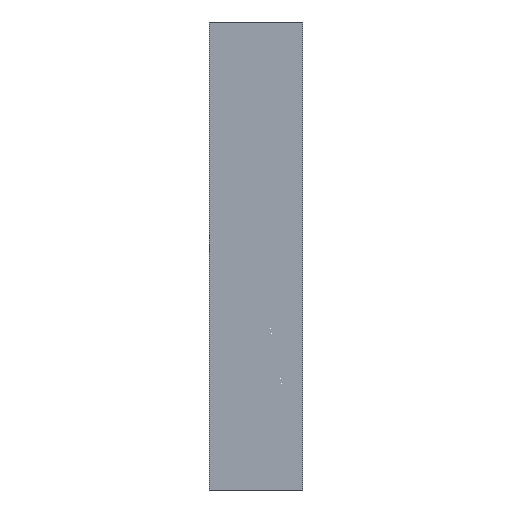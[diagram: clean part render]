
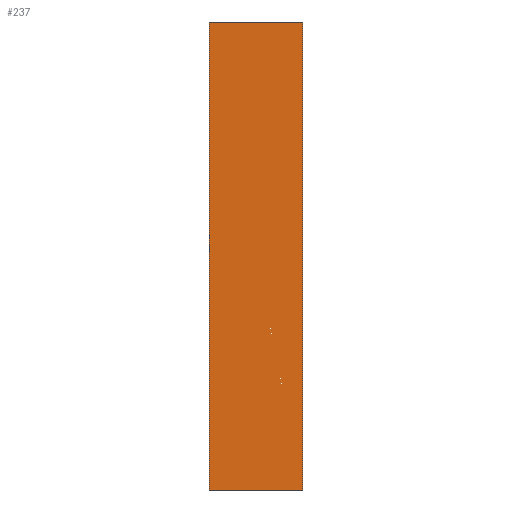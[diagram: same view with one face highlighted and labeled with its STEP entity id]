
A CAD part, front view. The second image highlights one B-rep face of the part: STEP entity #237.
In plain terms, the highlighted planar face has unit normal (0, -1, 0).
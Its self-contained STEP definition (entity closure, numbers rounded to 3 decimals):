
#21 = EDGE_CURVE('',#22,#24,#26,.T.);
#22 = VERTEX_POINT('',#23);
#23 = CARTESIAN_POINT('',(-154.,0.,66.));
#24 = VERTEX_POINT('',#25);
#25 = CARTESIAN_POINT('',(-154.,0.,86.));
#26 = SURFACE_CURVE('',#27,(#31,#43),.PCURVE_S1.);
#27 = LINE('',#28,#29);
#28 = CARTESIAN_POINT('',(-154.,0.,66.));
#29 = VECTOR('',#30,1.);
#30 = DIRECTION('',(0.,0.,1.));
#31 = PCURVE('',#32,#37);
#32 = PLANE('',#33);
#33 = AXIS2_PLACEMENT_3D('',#34,#35,#36);
#34 = CARTESIAN_POINT('',(-154.,0.,66.));
#35 = DIRECTION('',(1.,0.,0.));
#36 = DIRECTION('',(0.,0.,1.));
#37 = DEFINITIONAL_REPRESENTATION('',(#38),#42);
#38 = LINE('',#39,#40);
#39 = CARTESIAN_POINT('',(0.,0.));
#40 = VECTOR('',#41,1.);
#41 = DIRECTION('',(1.,0.));
#42 = ( GEOMETRIC_REPRESENTATION_CONTEXT(2) 
PARAMETRIC_REPRESENTATION_CONTEXT() REPRESENTATION_CONTEXT('2D SPACE',''
  ) );
#43 = PCURVE('',#44,#49);
#44 = PLANE('',#45);
#45 = AXIS2_PLACEMENT_3D('',#46,#47,#48);
#46 = CARTESIAN_POINT('',(-154.,0.,66.));
#47 = DIRECTION('',(0.,1.,0.));
#48 = DIRECTION('',(0.,0.,1.));
#49 = DEFINITIONAL_REPRESENTATION('',(#50),#54);
#50 = LINE('',#51,#52);
#51 = CARTESIAN_POINT('',(0.,0.));
#52 = VECTOR('',#53,1.);
#53 = DIRECTION('',(1.,0.));
#54 = ( GEOMETRIC_REPRESENTATION_CONTEXT(2) 
PARAMETRIC_REPRESENTATION_CONTEXT() REPRESENTATION_CONTEXT('2D SPACE',''
  ) );
#72 = PLANE('',#73);
#73 = AXIS2_PLACEMENT_3D('',#74,#75,#76);
#74 = CARTESIAN_POINT('',(-154.,0.,66.));
#75 = DIRECTION('',(0.,0.,1.));
#76 = DIRECTION('',(1.,0.,0.));
#126 = PLANE('',#127);
#127 = AXIS2_PLACEMENT_3D('',#128,#129,#130);
#128 = CARTESIAN_POINT('',(-154.,0.,86.));
#129 = DIRECTION('',(0.,0.,1.));
#130 = DIRECTION('',(1.,0.,0.));
#141 = EDGE_CURVE('',#142,#144,#146,.T.);
#142 = VERTEX_POINT('',#143);
#143 = CARTESIAN_POINT('',(-150.,0.,66.));
#144 = VERTEX_POINT('',#145);
#145 = CARTESIAN_POINT('',(-150.,0.,86.));
#146 = SURFACE_CURVE('',#147,(#151,#163),.PCURVE_S1.);
#147 = LINE('',#148,#149);
#148 = CARTESIAN_POINT('',(-150.,0.,66.));
#149 = VECTOR('',#150,1.);
#150 = DIRECTION('',(0.,0.,1.));
#151 = PCURVE('',#152,#157);
#152 = PLANE('',#153);
#153 = AXIS2_PLACEMENT_3D('',#154,#155,#156);
#154 = CARTESIAN_POINT('',(-150.,0.,66.));
#155 = DIRECTION('',(1.,0.,0.));
#156 = DIRECTION('',(0.,0.,1.));
#157 = DEFINITIONAL_REPRESENTATION('',(#158),#162);
#158 = LINE('',#159,#160);
#159 = CARTESIAN_POINT('',(0.,0.));
#160 = VECTOR('',#161,1.);
#161 = DIRECTION('',(1.,0.));
#162 = ( GEOMETRIC_REPRESENTATION_CONTEXT(2) 
PARAMETRIC_REPRESENTATION_CONTEXT() REPRESENTATION_CONTEXT('2D SPACE',''
  ) );
#163 = PCURVE('',#44,#164);
#164 = DEFINITIONAL_REPRESENTATION('',(#165),#169);
#165 = LINE('',#166,#167);
#166 = CARTESIAN_POINT('',(0.,4.));
#167 = VECTOR('',#168,1.);
#168 = DIRECTION('',(1.,0.));
#169 = ( GEOMETRIC_REPRESENTATION_CONTEXT(2) 
PARAMETRIC_REPRESENTATION_CONTEXT() REPRESENTATION_CONTEXT('2D SPACE',''
  ) );
#237 = ADVANCED_FACE('',(#238),#44,.F.);
#238 = FACE_BOUND('',#239,.F.);
#239 = EDGE_LOOP('',(#240,#261,#262,#283));
#240 = ORIENTED_EDGE('',*,*,#241,.F.);
#241 = EDGE_CURVE('',#22,#142,#242,.T.);
#242 = SURFACE_CURVE('',#243,(#247,#254),.PCURVE_S1.);
#243 = LINE('',#244,#245);
#244 = CARTESIAN_POINT('',(-154.,0.,66.));
#245 = VECTOR('',#246,1.);
#246 = DIRECTION('',(1.,0.,0.));
#247 = PCURVE('',#44,#248);
#248 = DEFINITIONAL_REPRESENTATION('',(#249),#253);
#249 = LINE('',#250,#251);
#250 = CARTESIAN_POINT('',(0.,0.));
#251 = VECTOR('',#252,1.);
#252 = DIRECTION('',(0.,1.));
#253 = ( GEOMETRIC_REPRESENTATION_CONTEXT(2) 
PARAMETRIC_REPRESENTATION_CONTEXT() REPRESENTATION_CONTEXT('2D SPACE',''
  ) );
#254 = PCURVE('',#72,#255);
#255 = DEFINITIONAL_REPRESENTATION('',(#256),#260);
#256 = LINE('',#257,#258);
#257 = CARTESIAN_POINT('',(0.,0.));
#258 = VECTOR('',#259,1.);
#259 = DIRECTION('',(1.,0.));
#260 = ( GEOMETRIC_REPRESENTATION_CONTEXT(2) 
PARAMETRIC_REPRESENTATION_CONTEXT() REPRESENTATION_CONTEXT('2D SPACE',''
  ) );
#261 = ORIENTED_EDGE('',*,*,#21,.T.);
#262 = ORIENTED_EDGE('',*,*,#263,.T.);
#263 = EDGE_CURVE('',#24,#144,#264,.T.);
#264 = SURFACE_CURVE('',#265,(#269,#276),.PCURVE_S1.);
#265 = LINE('',#266,#267);
#266 = CARTESIAN_POINT('',(-154.,0.,86.));
#267 = VECTOR('',#268,1.);
#268 = DIRECTION('',(1.,0.,0.));
#269 = PCURVE('',#44,#270);
#270 = DEFINITIONAL_REPRESENTATION('',(#271),#275);
#271 = LINE('',#272,#273);
#272 = CARTESIAN_POINT('',(20.,0.));
#273 = VECTOR('',#274,1.);
#274 = DIRECTION('',(0.,1.));
#275 = ( GEOMETRIC_REPRESENTATION_CONTEXT(2) 
PARAMETRIC_REPRESENTATION_CONTEXT() REPRESENTATION_CONTEXT('2D SPACE',''
  ) );
#276 = PCURVE('',#126,#277);
#277 = DEFINITIONAL_REPRESENTATION('',(#278),#282);
#278 = LINE('',#279,#280);
#279 = CARTESIAN_POINT('',(0.,0.));
#280 = VECTOR('',#281,1.);
#281 = DIRECTION('',(1.,0.));
#282 = ( GEOMETRIC_REPRESENTATION_CONTEXT(2) 
PARAMETRIC_REPRESENTATION_CONTEXT() REPRESENTATION_CONTEXT('2D SPACE',''
  ) );
#283 = ORIENTED_EDGE('',*,*,#141,.F.);
